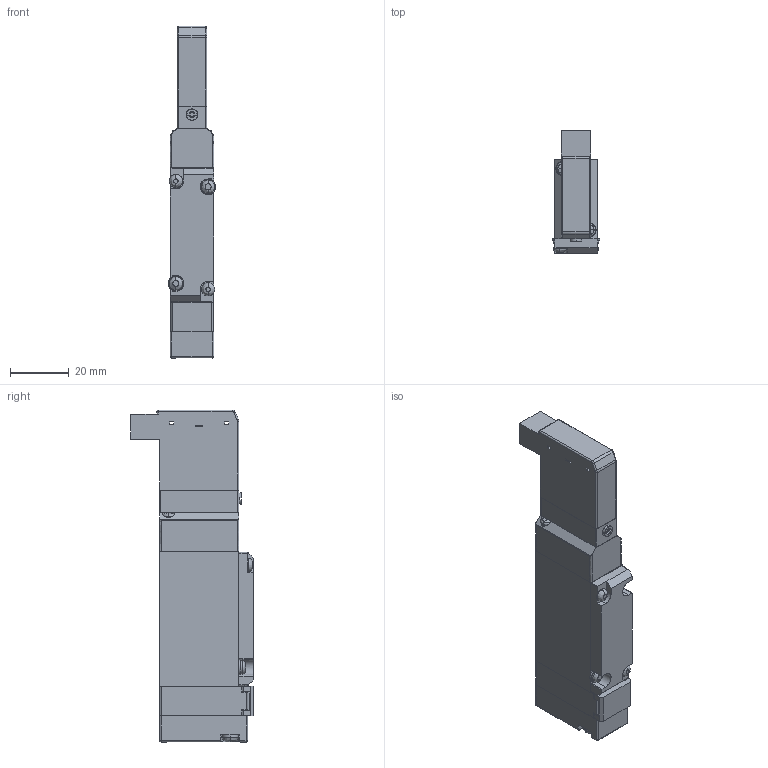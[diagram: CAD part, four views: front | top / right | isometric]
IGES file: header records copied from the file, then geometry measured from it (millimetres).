
Start section: ------------------------------------------------------------------------
Global section: file name: D:\ICADMX\tmp\trans3d_spg\CVICAD02.7120.F15T1-A1_16779.igs; native system: spGate; preprocessor: ver12.6.6; author: Unknown; organization: Unknown; date: 210712.184846; units: millimetre
Bounding box: 16.2 x 42 x 113.5 mm (x, y, z)
Surface area: 17341.2 mm2 (no closed solid volume)
Topology: 0 solids, 0 shells, 315 faces, 1635 edges, 1626 vertices
Faces by surface type: bspline 315
